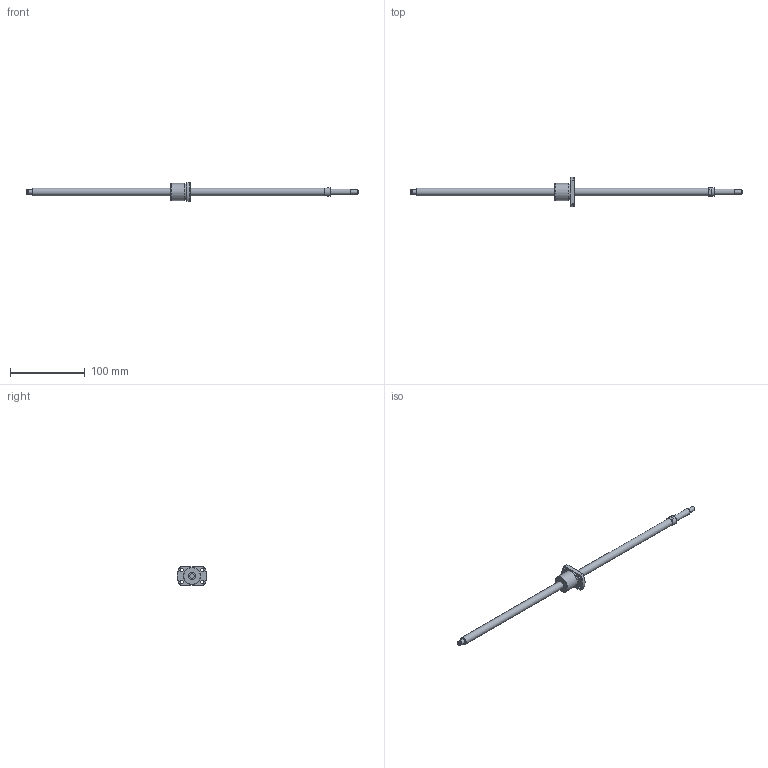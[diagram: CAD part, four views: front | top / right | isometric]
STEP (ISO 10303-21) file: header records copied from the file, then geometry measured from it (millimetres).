
FILE_DESCRIPTION(/* description */ ('STEP AP214'),/* implementation_level */ '2;1');
FILE_NAME(/* name */ 'SRT1005-387R445C7B0X(185Processing)',/* time_stamp */ '2026-08-06T15:09:35+02:00',/* author */ ('License CC BY-ND 4.0'),/* organization */ ('CADENAS'),/* preprocessor_version */ 'ST-DEVELOPER v20',/* originating_system */ 'PARTsolutions',/* authorisation */ ' ');
FILE_SCHEMA (('AUTOMOTIVE_DESIGN {1 0 10303 214 3 1 1}'));
Length unit declared in the file: millimetre
Products named in the file (3): SRT1005-387R445C7B0X(185Processing); SRT1005-387R470BCt7Processing62Shaft; SRT1005Nut
Assembly tree (2 placements, depth 2):
  SRT1005-387R445C7B0X(185Processing)
    SRT1005-387R470BCt7Processing62Shaft
    SRT1005Nut
Bounding box: 445 x 40 x 25 mm (x, y, z)
Volume: 44374.6 mm3; surface area: 18537.3 mm2
Topology: 2 solids, 2 shells, 44 faces, 95 edges, 62 vertices
Faces by surface type: plane 19, cylinder 16, cone 8, torus 1
Full cylindrical faces by diameter (mm): 4.5 x4, 5.7 x1, 6 x3, 8 x1, 10 x2, 11.5 x1, 22.7 x1, 23 x1
Entity records: 1175 total; most frequent: DIRECTION 202, CARTESIAN_POINT 199, ORIENTED_EDGE 142, AXIS2_PLACEMENT_3D 92, EDGE_LOOP 80, FACE_BOUND 80, EDGE_CURVE 71, VERTEX_POINT 57
